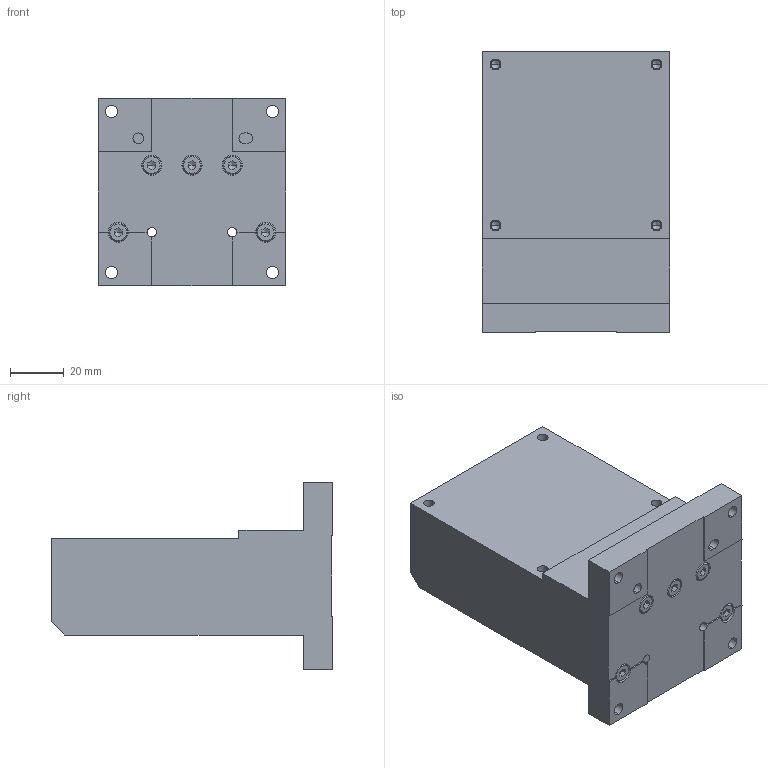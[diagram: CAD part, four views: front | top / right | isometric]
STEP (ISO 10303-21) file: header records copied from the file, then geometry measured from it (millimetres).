
FILE_DESCRIPTION( (''), '2;1');
FILE_NAME ('ZBA07.stp','2020-07-14T08:56:21',(''),(''),'spGate 15.6.6','','');
FILE_SCHEMA (('AUTOMOTIVE_DESIGN'));
Length unit declared in the file: millimetre
Products named in the file (2): Assembly; ZBA07-prt0
Assembly tree (1 placements, depth 2):
  Assembly
    ZBA07-prt0
Bounding box: 70 x 105 x 70 mm (x, y, z)
Volume: 200667 mm3; surface area: 39872.8 mm2
Topology: 1 solids, 1 shells, 222 faces, 515 edges, 298 vertices
Faces by surface type: plane 112, cylinder 64, bspline 46
Entity records: 10423 total; most frequent: CARTESIAN_POINT 1553, ORIENTED_EDGE 990, DIRECTION 938, COLOUR_RGB 718, PRESENTATION_STYLE_ASSIGNMENT 718, STYLED_ITEM 718, EDGE_CURVE 495, DRAUGHTING_PRE_DEFINED_CURVE_FONT 495
